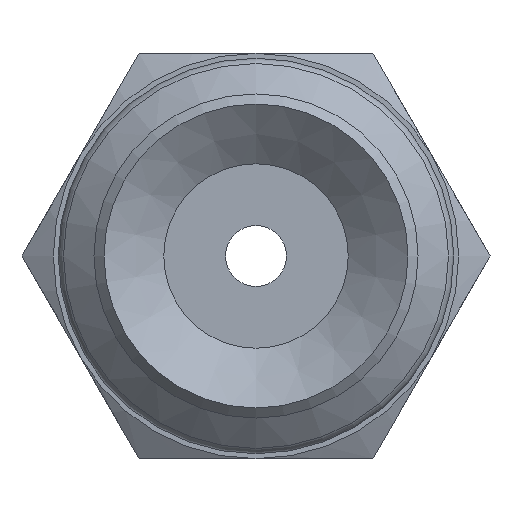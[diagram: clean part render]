
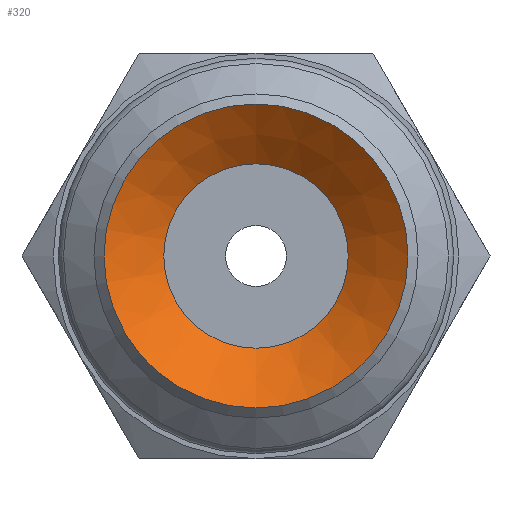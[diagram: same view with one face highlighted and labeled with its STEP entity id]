
A CAD part, front view. The second image highlights one B-rep face of the part: STEP entity #320.
In plain terms, the highlighted conical face has half-angle 52 degrees and reference radius 1.82 mm.
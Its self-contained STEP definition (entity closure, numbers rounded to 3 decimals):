
#320=ADVANCED_FACE('',(#469,#470),#471,.F.);
#469=FACE_BOUND('',#629,.T.);
#470=FACE_OUTER_BOUND('',#630,.T.);
#471=CONICAL_SURFACE('',#631,1.82,0.908);
#629=EDGE_LOOP('',(#936));
#630=EDGE_LOOP('',(#937));
#631=AXIS2_PLACEMENT_3D('',#938,#939,#940);
#936=ORIENTED_EDGE('',*,*,#1030,.F.);
#937=ORIENTED_EDGE('',*,*,#1039,.T.);
#938=CARTESIAN_POINT('',(0.0,6.889,0.0));
#939=DIRECTION('',(-0.0,-1.0,0.));
#940=DIRECTION('',(0.0,0.,-1.0));
#1030=EDGE_CURVE('',#1156,#1156,#1157,.T.);
#1039=EDGE_CURVE('',#1174,#1174,#1175,.T.);
#1156=VERTEX_POINT('',#1328);
#1157=CIRCLE('',#1329,1.82);
#1174=VERTEX_POINT('',#1346);
#1175=CIRCLE('',#1347,3.0);
#1328=CARTESIAN_POINT('',(0.0,6.889,-1.82));
#1329=AXIS2_PLACEMENT_3D('',#1480,#1481,#1482);
#1346=CARTESIAN_POINT('',(0.0,5.967,-3.0));
#1347=AXIS2_PLACEMENT_3D('',#1507,#1508,#1509);
#1480=CARTESIAN_POINT('',(0.0,6.889,0.0));
#1481=DIRECTION('',(0.0,-1.0,0.));
#1482=DIRECTION('',(0.0,0.,-1.0));
#1507=CARTESIAN_POINT('',(0.0,5.967,0.0));
#1508=DIRECTION('',(0.0,-1.0,0.));
#1509=DIRECTION('',(0.0,0.,-1.0));
